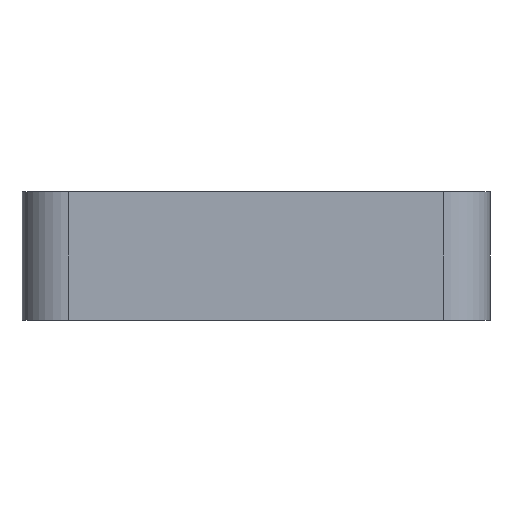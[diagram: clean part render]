
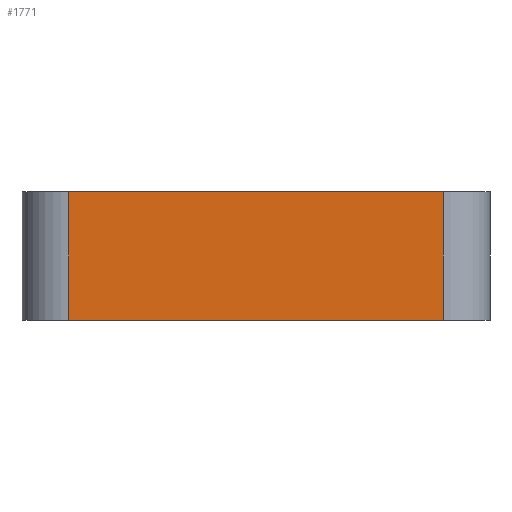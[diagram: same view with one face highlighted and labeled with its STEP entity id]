
A CAD part, front view. The second image highlights one B-rep face of the part: STEP entity #1771.
In plain terms, the highlighted planar face has unit normal (0, -1, 0).
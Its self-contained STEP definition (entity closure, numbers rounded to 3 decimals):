
#95 = VECTOR ( 'NONE', #743, 1000. ) ;
#157 = EDGE_LOOP ( 'NONE', ( #605, #1640, #397, #407 ) ) ;
#330 = DIRECTION ( 'NONE',  ( 0., 0., -1. ) ) ;
#347 = VECTOR ( 'NONE', #330, 1000. ) ;
#363 = FACE_OUTER_BOUND ( 'NONE', #157, .T. ) ;
#397 = ORIENTED_EDGE ( 'NONE', *, *, #2271, .F. ) ;
#407 = ORIENTED_EDGE ( 'NONE', *, *, #1008, .T. ) ;
#433 = CARTESIAN_POINT ( 'NONE',  ( -16., -20., 5.5 ) ) ;
#524 = CARTESIAN_POINT ( 'NONE',  ( -16., -20., -5.5 ) ) ;
#586 = VERTEX_POINT ( 'NONE', #524 ) ;
#605 = ORIENTED_EDGE ( 'NONE', *, *, #2200, .T. ) ;
#629 = LINE ( 'NONE', #433, #2047 ) ;
#677 = VERTEX_POINT ( 'NONE', #2416 ) ;
#712 = CARTESIAN_POINT ( 'NONE',  ( -16., -20., 5.5 ) ) ;
#743 = DIRECTION ( 'NONE',  ( 1., 0., 0. ) ) ;
#888 = CARTESIAN_POINT ( 'NONE',  ( 16., -20., 5.5 ) ) ;
#1008 = EDGE_CURVE ( 'NONE', #1702, #586, #2530, .T. ) ;
#1238 = DIRECTION ( 'NONE',  ( 1., 0., 0. ) ) ;
#1273 = AXIS2_PLACEMENT_3D ( 'NONE', #1367, #2197, #2220 ) ;
#1367 = CARTESIAN_POINT ( 'NONE',  ( -16., -20., 5.5 ) ) ;
#1386 = LINE ( 'NONE', #2166, #95 ) ;
#1393 = PLANE ( 'NONE',  #1273 ) ;
#1431 = EDGE_CURVE ( 'NONE', #2103, #677, #2407, .T. ) ;
#1616 = VECTOR ( 'NONE', #1984, 1000. ) ;
#1640 = ORIENTED_EDGE ( 'NONE', *, *, #1431, .F. ) ;
#1702 = VERTEX_POINT ( 'NONE', #2208 ) ;
#1771 = ADVANCED_FACE ( 'NONE', ( #363 ), #1393, .F. ) ;
#1984 = DIRECTION ( 'NONE',  ( 0., 0., -1. ) ) ;
#2047 = VECTOR ( 'NONE', #1238, 1000. ) ;
#2103 = VERTEX_POINT ( 'NONE', #888 ) ;
#2166 = CARTESIAN_POINT ( 'NONE',  ( -16., -20., -5.5 ) ) ;
#2197 = DIRECTION ( 'NONE',  ( 0., 1., 0. ) ) ;
#2200 = EDGE_CURVE ( 'NONE', #586, #677, #1386, .T. ) ;
#2208 = CARTESIAN_POINT ( 'NONE',  ( -16., -20., 5.5 ) ) ;
#2220 = DIRECTION ( 'NONE',  ( 0., 0., 1. ) ) ;
#2271 = EDGE_CURVE ( 'NONE', #1702, #2103, #629, .T. ) ;
#2407 = LINE ( 'NONE', #2432, #1616 ) ;
#2416 = CARTESIAN_POINT ( 'NONE',  ( 16., -20., -5.5 ) ) ;
#2432 = CARTESIAN_POINT ( 'NONE',  ( 16., -20., 5.5 ) ) ;
#2530 = LINE ( 'NONE', #712, #347 ) ;
